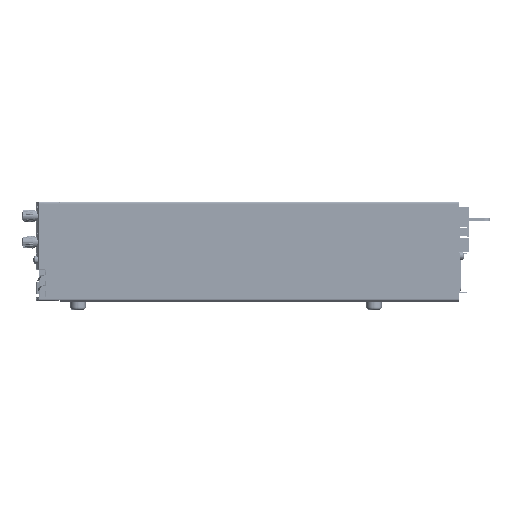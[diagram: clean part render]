
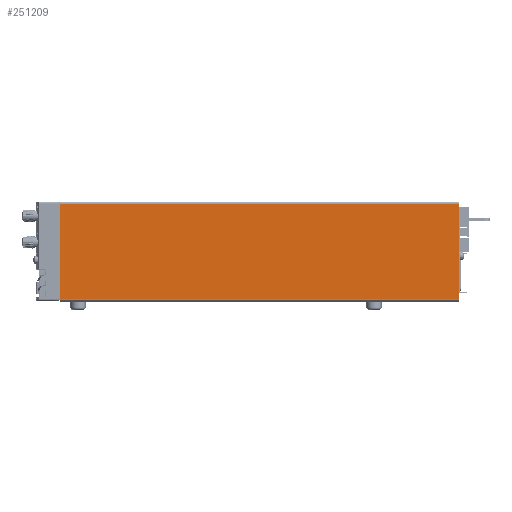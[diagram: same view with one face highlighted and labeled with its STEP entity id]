
A CAD part, top view. The second image highlights one B-rep face of the part: STEP entity #251209.
In plain terms, the highlighted planar face has unit normal (0, 0, 1) as drawn and (1, 0, 0) by its records, which use the part's own axes.
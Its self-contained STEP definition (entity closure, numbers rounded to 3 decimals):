
#32607 = CARTESIAN_POINT ( 'NONE',  ( 51.471, 25.989, -330. ) ) ;
#32614 = FACE_OUTER_BOUND ( 'NONE', #145797, .T. ) ;
#32615 = PLANE ( 'NONE',  #354438 ) ;
#32618 = DIRECTION ( 'NONE',  ( 1., 0., 0. ) ) ;
#32619 = DIRECTION ( 'NONE',  ( 0., 1., 0. ) ) ;
#141549 = CARTESIAN_POINT ( 'NONE',  ( 51.471, -53.011, -330. ) ) ;
#141646 = CARTESIAN_POINT ( 'NONE',  ( 51.471, 25.989, -330. ) ) ;
#141674 = CARTESIAN_POINT ( 'NONE',  ( 51.471, 25.989, 0. ) ) ;
#141679 = CARTESIAN_POINT ( 'NONE',  ( 51.471, -53.011, 0. ) ) ;
#145797 = EDGE_LOOP ( 'NONE', ( #242626, #242631, #242636, #242640 ) ) ;
#156716 = EDGE_CURVE ( 'NONE', #305533, #305698, #351898, .T. ) ;
#156719 = EDGE_CURVE ( 'NONE', #305533, #305766, #351866, .T. ) ;
#156721 = EDGE_CURVE ( 'NONE', #305766, #305710, #351916, .T. ) ;
#156723 = EDGE_CURVE ( 'NONE', #305698, #305710, #351925, .T. ) ;
#242626 = ORIENTED_EDGE ( 'NONE', *, *, #156721, .F. ) ;
#242631 = ORIENTED_EDGE ( 'NONE', *, *, #156719, .F. ) ;
#242636 = ORIENTED_EDGE ( 'NONE', *, *, #156716, .T. ) ;
#242640 = ORIENTED_EDGE ( 'NONE', *, *, #156723, .T. ) ;
#251209 = ADVANCED_FACE ( 'NONE', ( #32614 ), #32615, .T. ) ;
#305533 = VERTEX_POINT ( 'NONE', #141549 ) ;
#305698 = VERTEX_POINT ( 'NONE', #141646 ) ;
#305710 = VERTEX_POINT ( 'NONE', #141674 ) ;
#305766 = VERTEX_POINT ( 'NONE', #141679 ) ;
#340774 = VECTOR ( 'NONE', #351913, 1000. ) ;
#340778 = VECTOR ( 'NONE', #351905, 1000. ) ;
#340783 = VECTOR ( 'NONE', #351922, 1000. ) ;
#340785 = VECTOR ( 'NONE', #351933, 1000. ) ;
#351866 = LINE ( 'NONE', #351907, #340774 ) ;
#351898 = LINE ( 'NONE', #351902, #340778 ) ;
#351902 = CARTESIAN_POINT ( 'NONE',  ( 51.471, 25.989, -330. ) ) ;
#351905 = DIRECTION ( 'NONE',  ( 0., 1., 0. ) ) ;
#351907 = CARTESIAN_POINT ( 'NONE',  ( 51.471, -53.011, -330. ) ) ;
#351913 = DIRECTION ( 'NONE',  ( 0., 0., 1. ) ) ;
#351916 = LINE ( 'NONE', #351919, #340783 ) ;
#351919 = CARTESIAN_POINT ( 'NONE',  ( 51.471, 25.989, 0. ) ) ;
#351922 = DIRECTION ( 'NONE',  ( 0., 1., 0. ) ) ;
#351925 = LINE ( 'NONE', #351930, #340785 ) ;
#351930 = CARTESIAN_POINT ( 'NONE',  ( 51.471, 25.989, -330. ) ) ;
#351933 = DIRECTION ( 'NONE',  ( 0., 0., 1. ) ) ;
#354438 = AXIS2_PLACEMENT_3D ( 'NONE', #32607, #32618, #32619 ) ;
